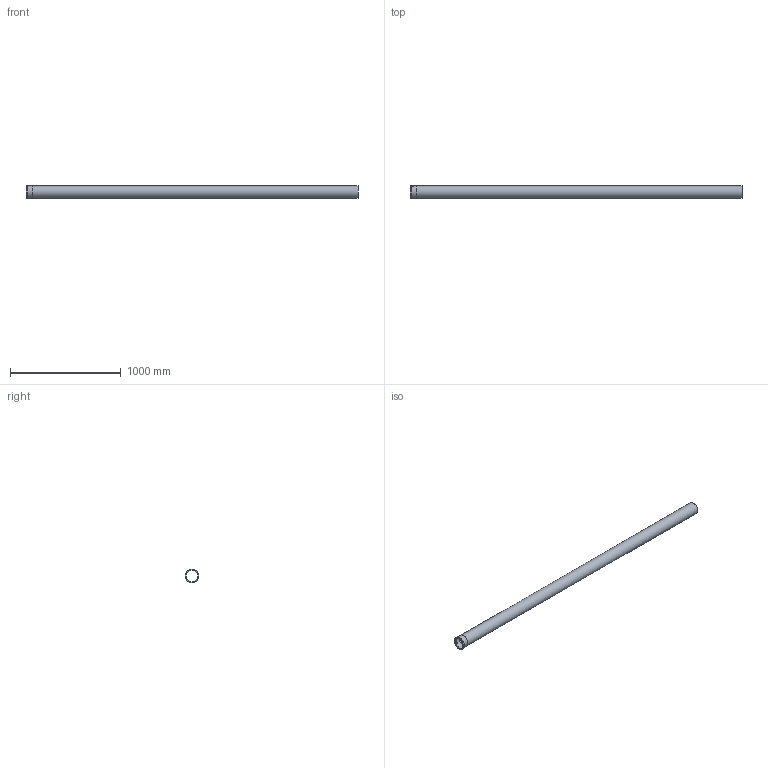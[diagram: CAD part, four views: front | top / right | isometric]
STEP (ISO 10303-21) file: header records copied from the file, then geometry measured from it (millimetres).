
FILE_DESCRIPTION((''),'2;1');
FILE_NAME('I:\WATTS\3D_CAD\3D_CAD_Models\Blucher_Drains\P_StraightPipe\WebsiteFiles\3D\STEP\P4-9.8-316.stp','2009-12-02T14:22:33',('menesek'),(''),'Autodesk Inventor 2010','Autodesk Inventor 2010','');
FILE_SCHEMA(('AUTOMOTIVE_DESIGN { 1 0 10303 214 1 1 1 1 }'));
Length unit declared in the file: inch
Products named in the file (1): P4-9.8-316
Bounding box: 3000 x 122.94 x 122.94 mm (x, y, z)
Volume: 1070650.4 mm3; surface area: 2059987.6 mm2
Topology: 1 solids, 1 shells, 109 faces, 285 edges, 190 vertices
Faces by surface type: plane 59, bspline 34, cylinder 16
Full cylindrical faces by diameter (mm): 107.95 x1, 109.982 x1, 111.252 x2, 122.936 x1
Entity records: 13900 total; most frequent: CARTESIAN_POINT 11522, ORIENTED_EDGE 548, DIRECTION 356, EDGE_CURVE 274, VERTEX_POINT 186, EDGE_LOOP 128, AXIS2_PLACEMENT_3D 120, VECTOR 116
